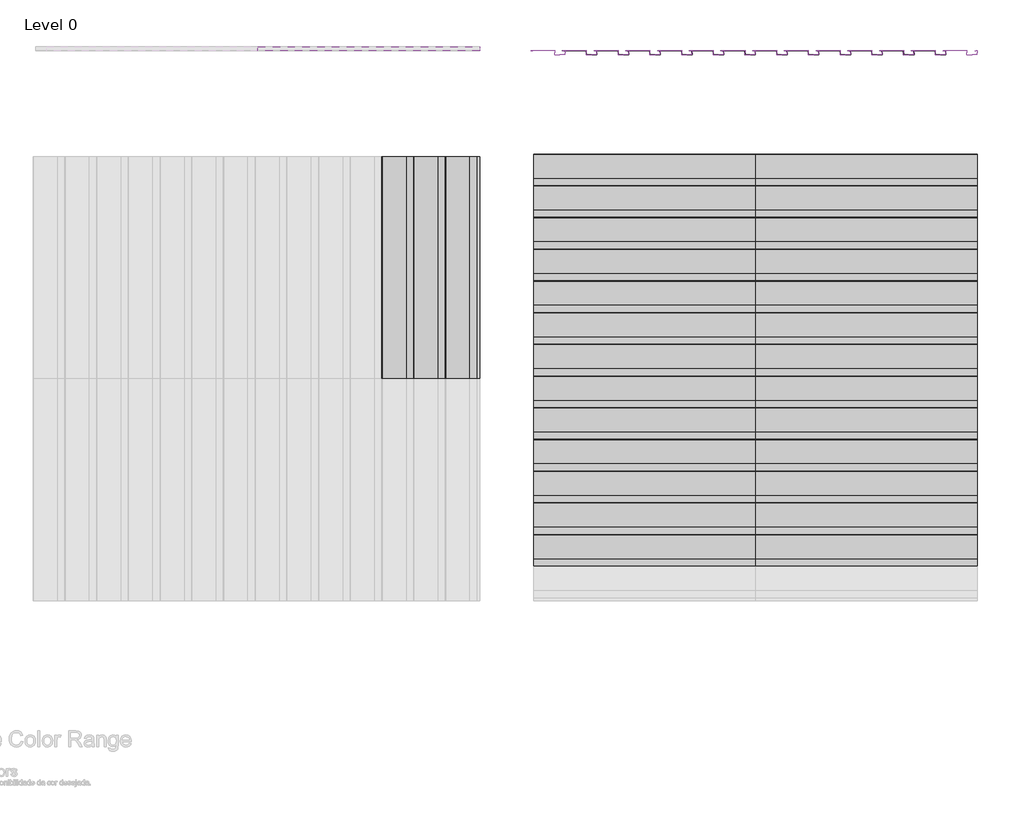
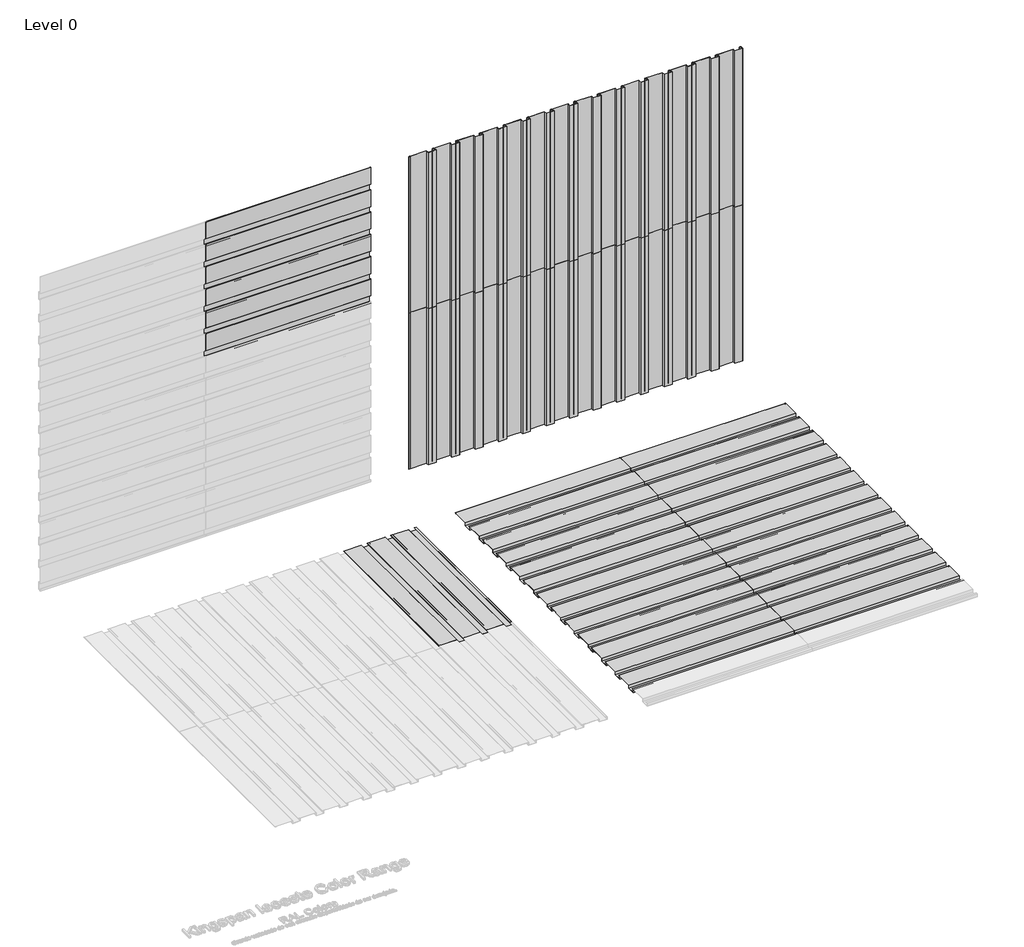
# One storey, part 2 of 2: 63 proxies.
"""IFC4 building model written with IfcOpenShell, lengths in millimetres."""

from ifc_helpers import new_model, si_unit, origin, place, context, project, spatial, transform, mapped, element, save
from components import mx11_0_standard_panel_ns_7b6c7506, mx11_0_standard_panel_ns_816acfb4, mx11_0_standard_panel_ns_a8d7d735

model = new_model("IFC4")

# Units and contexts
model_context = context("Model", 3, world=origin())
ifc_project = project(units=[si_unit("LENGTHUNIT", "METRE", prefix="MILLI")], contexts=[model_context])

# Site, building, storey
site = spatial("IfcSite", under=ifc_project)
building = spatial("IfcBuilding", under=site)
storey = spatial("IfcBuildingStorey", under=building, Name="Level 0", Elevation=0.0)

# Proxies
placement = place(None, origin())
mx11_0_standard_panel_ns_shape = mx11_0_standard_panel_ns_7b6c7506(model_context)
element("IfcBuildingElementProxy", 1, Name="MX11.0 : Standard Panel_NS", ObjectType="MX11.0 : Standard Panel_NS", at=placement, inside=storey, context=model_context, shape_type="MappedRepresentation", body=[
    mapped(mx11_0_standard_panel_ns_shape, transform((3089.7088665, 5063.0274074, 0.0), x_axis=(0.0, 0.0, 1.0), y_axis=(-1.0, 0.0, 0.0), z_axis=(0.0, -1.0, 0.0))),
])
element("IfcBuildingElementProxy", 2, Name="MX11.0 : Standard Panel_NS", ObjectType="MX11.0 : Standard Panel_NS", at=placement, inside=storey, context=model_context, shape_type="MappedRepresentation", body=[
    mapped(mx11_0_standard_panel_ns_shape, transform((3089.7088665, 5063.0274074, 2100.0), x_axis=(0.0, 0.0, 1.0), y_axis=(-1.0, 0.0, 0.0), z_axis=(0.0, -1.0, 0.0))),
])
element("IfcBuildingElementProxy", 3, Name="MX11.0 : Standard Panel_NS", ObjectType="MX11.0 : Standard Panel_NS", at=placement, inside=storey, context=model_context, shape_type="MappedRepresentation", body=[
    mapped(mx11_0_standard_panel_ns_shape, transform((5489.7088666, 5063.0274074, 0.0), x_axis=(0.0, 0.0, 1.0), y_axis=(-1.0, 0.0, 0.0), z_axis=(0.0, -1.0, 0.0))),
])
element("IfcBuildingElementProxy", 4, Name="MX11.0 : Standard Panel_NS", ObjectType="MX11.0 : Standard Panel_NS", at=placement, inside=storey, context=model_context, shape_type="MappedRepresentation", body=[
    mapped(mx11_0_standard_panel_ns_shape, transform((5489.7088666, 5063.0274074, 2100.0), x_axis=(0.0, 0.0, 1.0), y_axis=(-1.0, 0.0, 0.0), z_axis=(0.0, -1.0, 0.0))),
])
mx11_0_standard_panel_ns_2_shape = mx11_0_standard_panel_ns_816acfb4(model_context)
element("IfcBuildingElementProxy", 5, Name="MX11.0 : Standard Panel_NS", ObjectType="MX11.0 : Standard Panel_NS", at=placement, inside=storey, context=model_context, shape_type="MappedRepresentation", body=[
    mapped(mx11_0_standard_panel_ns_2_shape, transform((1289.7088668, 2258.3113453, 0.0), x_axis=(1.0, 0.0, 0.0), y_axis=(0.0, 1.0, 0.0), z_axis=(0.0, 0.0, 1.0))),
])
element("IfcBuildingElementProxy", 6, Name="MX11.0 : Standard Panel_NS", ObjectType="MX11.0 : Standard Panel_NS", at=placement, inside=storey, context=model_context, shape_type="MappedRepresentation", body=[
    mapped(mx11_0_standard_panel_ns_2_shape, transform((782.2362705, 1958.3113453, 0.0), x_axis=(0.0, 1.0, 0.0), y_axis=(-1.0, 0.0, 0.0), z_axis=(0.0, 0.0, 1.0))),
])
element("IfcBuildingElementProxy", 7, Name="MX11.0 : Standard Panel_NS", ObjectType="MX11.0 : Standard Panel_NS", at=placement, inside=storey, context=model_context, shape_type="MappedRepresentation", body=[
    mapped(mx11_0_standard_panel_ns_2_shape, transform((3389.7088668, 2258.3113453, 0.0), x_axis=(1.0, 0.0, 0.0), y_axis=(0.0, 1.0, 0.0), z_axis=(0.0, 0.0, 1.0))),
])
mx11_0_standard_panel_ns_3_shape = mx11_0_standard_panel_ns_a8d7d735(model_context)
element("IfcBuildingElementProxy", 8, Name="MX11.0 : Standard Panel_NS", ObjectType="MX11.0 : Standard Panel_NS", at=placement, inside=storey, context=model_context, shape_type="MappedRepresentation", body=[
    mapped(mx11_0_standard_panel_ns_3_shape, transform((-1317.7637295, 5063.0274074, 2400.0), x_axis=(1.0, 0.0, 0.0), y_axis=(0.0, 0.0, -1.0), z_axis=(0.0, 1.0, 0.0))),
])
element("IfcBuildingElementProxy", 9, Name="MX11.0 : Standard Panel_NS", ObjectType="MX11.0 : Standard Panel_NS", at=placement, inside=storey, context=model_context, shape_type="MappedRepresentation", body=[
    mapped(mx11_0_standard_panel_ns_2_shape, transform((1289.7088668, 1358.3113453, 0.0), x_axis=(1.0, 0.0, 0.0), y_axis=(0.0, 1.0, 0.0), z_axis=(0.0, 0.0, 1.0))),
])
element("IfcBuildingElementProxy", 10, Name="MX11.0 : Standard Panel_NS", ObjectType="MX11.0 : Standard Panel_NS", at=placement, inside=storey, context=model_context, shape_type="MappedRepresentation", body=[
    mapped(mx11_0_standard_panel_ns_2_shape, transform((1289.7088668, 3758.3113453, 0.0), x_axis=(1.0, 0.0, 0.0), y_axis=(0.0, 1.0, 0.0), z_axis=(0.0, 0.0, 1.0))),
])
element("IfcBuildingElementProxy", 11, Name="MX11.0 : Standard Panel_NS", ObjectType="MX11.0 : Standard Panel_NS", at=placement, inside=storey, context=model_context, shape_type="MappedRepresentation", body=[
    mapped(mx11_0_standard_panel_ns_2_shape, transform((3389.7088668, 1358.3113453, 0.0), x_axis=(1.0, 0.0, 0.0), y_axis=(0.0, 1.0, 0.0), z_axis=(0.0, 0.0, 1.0))),
])
element("IfcBuildingElementProxy", 12, Name="MX11.0 : Standard Panel_NS", ObjectType="MX11.0 : Standard Panel_NS", at=placement, inside=storey, context=model_context, shape_type="MappedRepresentation", body=[
    mapped(mx11_0_standard_panel_ns_2_shape, transform((3389.7088668, 3758.3113453, 0.0), x_axis=(1.0, 0.0, 0.0), y_axis=(0.0, 1.0, 0.0), z_axis=(0.0, 0.0, 1.0))),
])
element("IfcBuildingElementProxy", 13, Name="MX11.0 : Standard Panel_NS", ObjectType="MX11.0 : Standard Panel_NS", at=placement, inside=storey, context=model_context, shape_type="MappedRepresentation", body=[
    mapped(mx11_0_standard_panel_ns_shape, transform((1589.7088666, 5063.0274074, 0.0), x_axis=(0.0, 0.0, 1.0), y_axis=(-1.0, 0.0, 0.0), z_axis=(0.0, -1.0, 0.0))),
])
element("IfcBuildingElementProxy", 14, Name="MX11.0 : Standard Panel_NS", ObjectType="MX11.0 : Standard Panel_NS", at=placement, inside=storey, context=model_context, shape_type="MappedRepresentation", body=[
    mapped(mx11_0_standard_panel_ns_shape, transform((1589.7088666, 5063.0274074, 2100.0), x_axis=(0.0, 0.0, 1.0), y_axis=(-1.0, 0.0, 0.0), z_axis=(0.0, -1.0, 0.0))),
])
element("IfcBuildingElementProxy", 15, Name="MX11.0 : Standard Panel_NS", ObjectType="MX11.0 : Standard Panel_NS", at=placement, inside=storey, context=model_context, shape_type="MappedRepresentation", body=[
    mapped(mx11_0_standard_panel_ns_shape, transform((3989.7088665, 5063.0274074, 0.0), x_axis=(0.0, 0.0, 1.0), y_axis=(-1.0, 0.0, 0.0), z_axis=(0.0, -1.0, 0.0))),
])
element("IfcBuildingElementProxy", 16, Name="MX11.0 : Standard Panel_NS", ObjectType="MX11.0 : Standard Panel_NS", at=placement, inside=storey, context=model_context, shape_type="MappedRepresentation", body=[
    mapped(mx11_0_standard_panel_ns_shape, transform((3989.7088665, 5063.0274074, 2100.0), x_axis=(0.0, 0.0, 1.0), y_axis=(-1.0, 0.0, 0.0), z_axis=(0.0, -1.0, 0.0))),
])
element("IfcBuildingElementProxy", 17, Name="MX11.0 : Standard Panel_NS", ObjectType="MX11.0 : Standard Panel_NS", at=placement, inside=storey, context=model_context, shape_type="MappedRepresentation", body=[
    mapped(mx11_0_standard_panel_ns_shape, transform((2789.7088665, 5063.0274074, 0.0), x_axis=(0.0, 0.0, 1.0), y_axis=(-1.0, 0.0, 0.0), z_axis=(0.0, -1.0, 0.0))),
])
element("IfcBuildingElementProxy", 18, Name="MX11.0 : Standard Panel_NS", ObjectType="MX11.0 : Standard Panel_NS", at=placement, inside=storey, context=model_context, shape_type="MappedRepresentation", body=[
    mapped(mx11_0_standard_panel_ns_shape, transform((2789.7088665, 5063.0274074, 2100.0), x_axis=(0.0, 0.0, 1.0), y_axis=(-1.0, 0.0, 0.0), z_axis=(0.0, -1.0, 0.0))),
])
element("IfcBuildingElementProxy", 19, Name="MX11.0 : Standard Panel_NS", ObjectType="MX11.0 : Standard Panel_NS", at=placement, inside=storey, context=model_context, shape_type="MappedRepresentation", body=[
    mapped(mx11_0_standard_panel_ns_shape, transform((5189.7088665, 5063.0274074, 0.0), x_axis=(0.0, 0.0, 1.0), y_axis=(-1.0, 0.0, 0.0), z_axis=(0.0, -1.0, 0.0))),
])
element("IfcBuildingElementProxy", 20, Name="MX11.0 : Standard Panel_NS", ObjectType="MX11.0 : Standard Panel_NS", at=placement, inside=storey, context=model_context, shape_type="MappedRepresentation", body=[
    mapped(mx11_0_standard_panel_ns_shape, transform((5189.7088665, 5063.0274074, 2100.0), x_axis=(0.0, 0.0, 1.0), y_axis=(-1.0, 0.0, 0.0), z_axis=(0.0, -1.0, 0.0))),
])
element("IfcBuildingElementProxy", 21, Name="MX11.0 : Standard Panel_NS", ObjectType="MX11.0 : Standard Panel_NS", at=placement, inside=storey, context=model_context, shape_type="MappedRepresentation", body=[
    mapped(mx11_0_standard_panel_ns_shape, transform((2489.7088665, 5063.0274074, 0.0), x_axis=(0.0, 0.0, 1.0), y_axis=(-1.0, 0.0, 0.0), z_axis=(0.0, -1.0, 0.0))),
])
element("IfcBuildingElementProxy", 22, Name="MX11.0 : Standard Panel_NS", ObjectType="MX11.0 : Standard Panel_NS", at=placement, inside=storey, context=model_context, shape_type="MappedRepresentation", body=[
    mapped(mx11_0_standard_panel_ns_shape, transform((2489.7088665, 5063.0274074, 2100.0), x_axis=(0.0, 0.0, 1.0), y_axis=(-1.0, 0.0, 0.0), z_axis=(0.0, -1.0, 0.0))),
])
element("IfcBuildingElementProxy", 23, Name="MX11.0 : Standard Panel_NS", ObjectType="MX11.0 : Standard Panel_NS", at=placement, inside=storey, context=model_context, shape_type="MappedRepresentation", body=[
    mapped(mx11_0_standard_panel_ns_shape, transform((4889.7088665, 5063.0274074, 0.0), x_axis=(0.0, 0.0, 1.0), y_axis=(-1.0, 0.0, 0.0), z_axis=(0.0, -1.0, 0.0))),
])
element("IfcBuildingElementProxy", 24, Name="MX11.0 : Standard Panel_NS", ObjectType="MX11.0 : Standard Panel_NS", at=placement, inside=storey, context=model_context, shape_type="MappedRepresentation", body=[
    mapped(mx11_0_standard_panel_ns_shape, transform((4889.7088665, 5063.0274074, 2100.0), x_axis=(0.0, 0.0, 1.0), y_axis=(-1.0, 0.0, 0.0), z_axis=(0.0, -1.0, 0.0))),
])
element("IfcBuildingElementProxy", 25, Name="MX11.0 : Standard Panel_NS", ObjectType="MX11.0 : Standard Panel_NS", at=placement, inside=storey, context=model_context, shape_type="MappedRepresentation", body=[
    mapped(mx11_0_standard_panel_ns_shape, transform((2189.7088665, 5063.0274074, 0.0), x_axis=(0.0, 0.0, 1.0), y_axis=(-1.0, 0.0, 0.0), z_axis=(0.0, -1.0, 0.0))),
])
element("IfcBuildingElementProxy", 26, Name="MX11.0 : Standard Panel_NS", ObjectType="MX11.0 : Standard Panel_NS", at=placement, inside=storey, context=model_context, shape_type="MappedRepresentation", body=[
    mapped(mx11_0_standard_panel_ns_shape, transform((2189.7088665, 5063.0274074, 2100.0), x_axis=(0.0, 0.0, 1.0), y_axis=(-1.0, 0.0, 0.0), z_axis=(0.0, -1.0, 0.0))),
])
element("IfcBuildingElementProxy", 27, Name="MX11.0 : Standard Panel_NS", ObjectType="MX11.0 : Standard Panel_NS", at=placement, inside=storey, context=model_context, shape_type="MappedRepresentation", body=[
    mapped(mx11_0_standard_panel_ns_shape, transform((4589.7088665, 5063.0274074, 0.0), x_axis=(0.0, 0.0, 1.0), y_axis=(-1.0, 0.0, 0.0), z_axis=(0.0, -1.0, 0.0))),
])
element("IfcBuildingElementProxy", 28, Name="MX11.0 : Standard Panel_NS", ObjectType="MX11.0 : Standard Panel_NS", at=placement, inside=storey, context=model_context, shape_type="MappedRepresentation", body=[
    mapped(mx11_0_standard_panel_ns_shape, transform((4589.7088665, 5063.0274074, 2100.0), x_axis=(0.0, 0.0, 1.0), y_axis=(-1.0, 0.0, 0.0), z_axis=(0.0, -1.0, 0.0))),
])
element("IfcBuildingElementProxy", 29, Name="MX11.0 : Standard Panel_NS", ObjectType="MX11.0 : Standard Panel_NS", at=placement, inside=storey, context=model_context, shape_type="MappedRepresentation", body=[
    mapped(mx11_0_standard_panel_ns_shape, transform((1889.7088665, 5063.0274074, 0.0), x_axis=(0.0, 0.0, 1.0), y_axis=(-1.0, 0.0, 0.0), z_axis=(0.0, -1.0, 0.0))),
])
element("IfcBuildingElementProxy", 30, Name="MX11.0 : Standard Panel_NS", ObjectType="MX11.0 : Standard Panel_NS", at=placement, inside=storey, context=model_context, shape_type="MappedRepresentation", body=[
    mapped(mx11_0_standard_panel_ns_shape, transform((1889.7088665, 5063.0274074, 2100.0), x_axis=(0.0, 0.0, 1.0), y_axis=(-1.0, 0.0, 0.0), z_axis=(0.0, -1.0, 0.0))),
])
element("IfcBuildingElementProxy", 31, Name="MX11.0 : Standard Panel_NS", ObjectType="MX11.0 : Standard Panel_NS", at=placement, inside=storey, context=model_context, shape_type="MappedRepresentation", body=[
    mapped(mx11_0_standard_panel_ns_shape, transform((4289.7088665, 5063.0274074, 0.0), x_axis=(0.0, 0.0, 1.0), y_axis=(-1.0, 0.0, 0.0), z_axis=(0.0, -1.0, 0.0))),
])
element("IfcBuildingElementProxy", 32, Name="MX11.0 : Standard Panel_NS", ObjectType="MX11.0 : Standard Panel_NS", at=placement, inside=storey, context=model_context, shape_type="MappedRepresentation", body=[
    mapped(mx11_0_standard_panel_ns_shape, transform((4289.7088665, 5063.0274074, 2100.0), x_axis=(0.0, 0.0, 1.0), y_axis=(-1.0, 0.0, 0.0), z_axis=(0.0, -1.0, 0.0))),
])
element("IfcBuildingElementProxy", 33, Name="MX11.0 : Standard Panel_NS", ObjectType="MX11.0 : Standard Panel_NS", at=placement, inside=storey, context=model_context, shape_type="MappedRepresentation", body=[
    mapped(mx11_0_standard_panel_ns_shape, transform((3689.7088665, 5063.0274074, 0.0), x_axis=(0.0, 0.0, 1.0), y_axis=(-1.0, 0.0, 0.0), z_axis=(0.0, -1.0, 0.0))),
])
element("IfcBuildingElementProxy", 34, Name="MX11.0 : Standard Panel_NS", ObjectType="MX11.0 : Standard Panel_NS", at=placement, inside=storey, context=model_context, shape_type="MappedRepresentation", body=[
    mapped(mx11_0_standard_panel_ns_shape, transform((3689.7088665, 5063.0274074, 2100.0), x_axis=(0.0, 0.0, 1.0), y_axis=(-1.0, 0.0, 0.0), z_axis=(0.0, -1.0, 0.0))),
])
element("IfcBuildingElementProxy", 35, Name="MX11.0 : Standard Panel_NS", ObjectType="MX11.0 : Standard Panel_NS", at=placement, inside=storey, context=model_context, shape_type="MappedRepresentation", body=[
    mapped(mx11_0_standard_panel_ns_shape, transform((3389.7088665, 5063.0274074, 0.0), x_axis=(0.0, 0.0, 1.0), y_axis=(-1.0, 0.0, 0.0), z_axis=(0.0, -1.0, 0.0))),
])
element("IfcBuildingElementProxy", 36, Name="MX11.0 : Standard Panel_NS", ObjectType="MX11.0 : Standard Panel_NS", at=placement, inside=storey, context=model_context, shape_type="MappedRepresentation", body=[
    mapped(mx11_0_standard_panel_ns_shape, transform((3389.7088665, 5063.0274074, 2100.0), x_axis=(0.0, 0.0, 1.0), y_axis=(-1.0, 0.0, 0.0), z_axis=(0.0, -1.0, 0.0))),
])
element("IfcBuildingElementProxy", 37, Name="MX11.0 : Standard Panel_NS", ObjectType="MX11.0 : Standard Panel_NS", at=placement, inside=storey, context=model_context, shape_type="MappedRepresentation", body=[
    mapped(mx11_0_standard_panel_ns_2_shape, transform((1289.7088668, 158.3113453, 0.0), x_axis=(1.0, 0.0, 0.0), y_axis=(0.0, 1.0, 0.0), z_axis=(0.0, 0.0, 1.0))),
])
element("IfcBuildingElementProxy", 38, Name="MX11.0 : Standard Panel_NS", ObjectType="MX11.0 : Standard Panel_NS", at=placement, inside=storey, context=model_context, shape_type="MappedRepresentation", body=[
    mapped(mx11_0_standard_panel_ns_2_shape, transform((1289.7088668, 2558.3113453, 0.0), x_axis=(1.0, 0.0, 0.0), y_axis=(0.0, 1.0, 0.0), z_axis=(0.0, 0.0, 1.0))),
])
element("IfcBuildingElementProxy", 39, Name="MX11.0 : Standard Panel_NS", ObjectType="MX11.0 : Standard Panel_NS", at=placement, inside=storey, context=model_context, shape_type="MappedRepresentation", body=[
    mapped(mx11_0_standard_panel_ns_2_shape, transform((482.2362703, 1958.3113453, 0.0), x_axis=(0.0, 1.0, 0.0), y_axis=(-1.0, 0.0, 0.0), z_axis=(0.0, 0.0, 1.0))),
])
element("IfcBuildingElementProxy", 40, Name="MX11.0 : Standard Panel_NS", ObjectType="MX11.0 : Standard Panel_NS", at=placement, inside=storey, context=model_context, shape_type="MappedRepresentation", body=[
    mapped(mx11_0_standard_panel_ns_2_shape, transform((3389.7088668, 158.3113453, 0.0), x_axis=(1.0, 0.0, 0.0), y_axis=(0.0, 1.0, 0.0), z_axis=(0.0, 0.0, 1.0))),
])
element("IfcBuildingElementProxy", 41, Name="MX11.0 : Standard Panel_NS", ObjectType="MX11.0 : Standard Panel_NS", at=placement, inside=storey, context=model_context, shape_type="MappedRepresentation", body=[
    mapped(mx11_0_standard_panel_ns_2_shape, transform((3389.7088668, 2558.3113453, 0.0), x_axis=(1.0, 0.0, 0.0), y_axis=(0.0, 1.0, 0.0), z_axis=(0.0, 0.0, 1.0))),
])
element("IfcBuildingElementProxy", 42, Name="MX11.0 : Standard Panel_NS", ObjectType="MX11.0 : Standard Panel_NS", at=placement, inside=storey, context=model_context, shape_type="MappedRepresentation", body=[
    mapped(mx11_0_standard_panel_ns_2_shape, transform((1289.7088668, 458.3113453, 0.0), x_axis=(1.0, 0.0, 0.0), y_axis=(0.0, 1.0, 0.0), z_axis=(0.0, 0.0, 1.0))),
])
element("IfcBuildingElementProxy", 43, Name="MX11.0 : Standard Panel_NS", ObjectType="MX11.0 : Standard Panel_NS", at=placement, inside=storey, context=model_context, shape_type="MappedRepresentation", body=[
    mapped(mx11_0_standard_panel_ns_2_shape, transform((1289.7088668, 2858.3113453, 0.0), x_axis=(1.0, 0.0, 0.0), y_axis=(0.0, 1.0, 0.0), z_axis=(0.0, 0.0, 1.0))),
])
element("IfcBuildingElementProxy", 44, Name="MX11.0 : Standard Panel_NS", ObjectType="MX11.0 : Standard Panel_NS", at=placement, inside=storey, context=model_context, shape_type="MappedRepresentation", body=[
    mapped(mx11_0_standard_panel_ns_2_shape, transform((182.2362703, 1958.3113453, 0.0), x_axis=(0.0, 1.0, 0.0), y_axis=(-1.0, 0.0, 0.0), z_axis=(0.0, 0.0, 1.0))),
])
element("IfcBuildingElementProxy", 45, Name="MX11.0 : Standard Panel_NS", ObjectType="MX11.0 : Standard Panel_NS", at=placement, inside=storey, context=model_context, shape_type="MappedRepresentation", body=[
    mapped(mx11_0_standard_panel_ns_2_shape, transform((3389.7088668, 458.3113453, 0.0), x_axis=(1.0, 0.0, 0.0), y_axis=(0.0, 1.0, 0.0), z_axis=(0.0, 0.0, 1.0))),
])
element("IfcBuildingElementProxy", 46, Name="MX11.0 : Standard Panel_NS", ObjectType="MX11.0 : Standard Panel_NS", at=placement, inside=storey, context=model_context, shape_type="MappedRepresentation", body=[
    mapped(mx11_0_standard_panel_ns_2_shape, transform((3389.7088668, 2858.3113453, 0.0), x_axis=(1.0, 0.0, 0.0), y_axis=(0.0, 1.0, 0.0), z_axis=(0.0, 0.0, 1.0))),
])
element("IfcBuildingElementProxy", 47, Name="MX11.0 : Standard Panel_NS", ObjectType="MX11.0 : Standard Panel_NS", at=placement, inside=storey, context=model_context, shape_type="MappedRepresentation", body=[
    mapped(mx11_0_standard_panel_ns_2_shape, transform((1289.7088668, 758.3113453, 0.0), x_axis=(1.0, 0.0, 0.0), y_axis=(0.0, 1.0, 0.0), z_axis=(0.0, 0.0, 1.0))),
])
element("IfcBuildingElementProxy", 48, Name="MX11.0 : Standard Panel_NS", ObjectType="MX11.0 : Standard Panel_NS", at=placement, inside=storey, context=model_context, shape_type="MappedRepresentation", body=[
    mapped(mx11_0_standard_panel_ns_2_shape, transform((1289.7088668, 3158.3113453, 0.0), x_axis=(1.0, 0.0, 0.0), y_axis=(0.0, 1.0, 0.0), z_axis=(0.0, 0.0, 1.0))),
])
element("IfcBuildingElementProxy", 49, Name="MX11.0 : Standard Panel_NS", ObjectType="MX11.0 : Standard Panel_NS", at=placement, inside=storey, context=model_context, shape_type="MappedRepresentation", body=[
    mapped(mx11_0_standard_panel_ns_2_shape, transform((3389.7088668, 758.3113453, 0.0), x_axis=(1.0, 0.0, 0.0), y_axis=(0.0, 1.0, 0.0), z_axis=(0.0, 0.0, 1.0))),
])
element("IfcBuildingElementProxy", 50, Name="MX11.0 : Standard Panel_NS", ObjectType="MX11.0 : Standard Panel_NS", at=placement, inside=storey, context=model_context, shape_type="MappedRepresentation", body=[
    mapped(mx11_0_standard_panel_ns_2_shape, transform((3389.7088668, 3158.3113453, 0.0), x_axis=(1.0, 0.0, 0.0), y_axis=(0.0, 1.0, 0.0), z_axis=(0.0, 0.0, 1.0))),
])
element("IfcBuildingElementProxy", 51, Name="MX11.0 : Standard Panel_NS", ObjectType="MX11.0 : Standard Panel_NS", at=placement, inside=storey, context=model_context, shape_type="MappedRepresentation", body=[
    mapped(mx11_0_standard_panel_ns_2_shape, transform((1289.7088668, 1058.3113453, 0.0), x_axis=(1.0, 0.0, 0.0), y_axis=(0.0, 1.0, 0.0), z_axis=(0.0, 0.0, 1.0))),
])
element("IfcBuildingElementProxy", 52, Name="MX11.0 : Standard Panel_NS", ObjectType="MX11.0 : Standard Panel_NS", at=placement, inside=storey, context=model_context, shape_type="MappedRepresentation", body=[
    mapped(mx11_0_standard_panel_ns_2_shape, transform((1289.7088668, 3458.3113453, 0.0), x_axis=(1.0, 0.0, 0.0), y_axis=(0.0, 1.0, 0.0), z_axis=(0.0, 0.0, 1.0))),
])
element("IfcBuildingElementProxy", 53, Name="MX11.0 : Standard Panel_NS", ObjectType="MX11.0 : Standard Panel_NS", at=placement, inside=storey, context=model_context, shape_type="MappedRepresentation", body=[
    mapped(mx11_0_standard_panel_ns_2_shape, transform((3389.7088668, 1058.3113453, 0.0), x_axis=(1.0, 0.0, 0.0), y_axis=(0.0, 1.0, 0.0), z_axis=(0.0, 0.0, 1.0))),
])
element("IfcBuildingElementProxy", 54, Name="MX11.0 : Standard Panel_NS", ObjectType="MX11.0 : Standard Panel_NS", at=placement, inside=storey, context=model_context, shape_type="MappedRepresentation", body=[
    mapped(mx11_0_standard_panel_ns_2_shape, transform((3389.7088668, 3458.3113453, 0.0), x_axis=(1.0, 0.0, 0.0), y_axis=(0.0, 1.0, 0.0), z_axis=(0.0, 0.0, 1.0))),
])
element("IfcBuildingElementProxy", 55, Name="MX11.0 : Standard Panel_NS", ObjectType="MX11.0 : Standard Panel_NS", at=placement, inside=storey, context=model_context, shape_type="MappedRepresentation", body=[
    mapped(mx11_0_standard_panel_ns_2_shape, transform((1289.7088668, 1658.3113453, 0.0), x_axis=(1.0, 0.0, 0.0), y_axis=(0.0, 1.0, 0.0), z_axis=(0.0, 0.0, 1.0))),
])
element("IfcBuildingElementProxy", 56, Name="MX11.0 : Standard Panel_NS", ObjectType="MX11.0 : Standard Panel_NS", at=placement, inside=storey, context=model_context, shape_type="MappedRepresentation", body=[
    mapped(mx11_0_standard_panel_ns_2_shape, transform((3389.7088668, 1658.3113453, 0.0), x_axis=(1.0, 0.0, 0.0), y_axis=(0.0, 1.0, 0.0), z_axis=(0.0, 0.0, 1.0))),
])
element("IfcBuildingElementProxy", 57, Name="MX11.0 : Standard Panel_NS", ObjectType="MX11.0 : Standard Panel_NS", at=placement, inside=storey, context=model_context, shape_type="MappedRepresentation", body=[
    mapped(mx11_0_standard_panel_ns_2_shape, transform((1289.7088668, 1958.3113453, 0.0), x_axis=(1.0, 0.0, 0.0), y_axis=(0.0, 1.0, 0.0), z_axis=(0.0, 0.0, 1.0))),
])
element("IfcBuildingElementProxy", 58, Name="MX11.0 : Standard Panel_NS", ObjectType="MX11.0 : Standard Panel_NS", at=placement, inside=storey, context=model_context, shape_type="MappedRepresentation", body=[
    mapped(mx11_0_standard_panel_ns_2_shape, transform((3389.7088668, 1958.3113453, 0.0), x_axis=(1.0, 0.0, 0.0), y_axis=(0.0, 1.0, 0.0), z_axis=(0.0, 0.0, 1.0))),
])
element("IfcBuildingElementProxy", 59, Name="MX11.0 : Standard Panel_NS", ObjectType="MX11.0 : Standard Panel_NS", at=placement, inside=storey, context=model_context, shape_type="MappedRepresentation", body=[
    mapped(mx11_0_standard_panel_ns_3_shape, transform((-1317.7637295, 5063.0274074, 2700.0), x_axis=(1.0, 0.0, 0.0), y_axis=(0.0, 0.0, -1.0), z_axis=(0.0, 1.0, 0.0))),
])
element("IfcBuildingElementProxy", 60, Name="MX11.0 : Standard Panel_NS", ObjectType="MX11.0 : Standard Panel_NS", at=placement, inside=storey, context=model_context, shape_type="MappedRepresentation", body=[
    mapped(mx11_0_standard_panel_ns_3_shape, transform((-1317.7637295, 5063.0274074, 3000.0), x_axis=(1.0, 0.0, 0.0), y_axis=(0.0, 0.0, -1.0), z_axis=(0.0, 1.0, 0.0))),
])
element("IfcBuildingElementProxy", 61, Name="MX11.0 : Standard Panel_NS", ObjectType="MX11.0 : Standard Panel_NS", at=placement, inside=storey, context=model_context, shape_type="MappedRepresentation", body=[
    mapped(mx11_0_standard_panel_ns_3_shape, transform((-1317.7637295, 5063.0274074, 3300.0), x_axis=(1.0, 0.0, 0.0), y_axis=(0.0, 0.0, -1.0), z_axis=(0.0, 1.0, 0.0))),
])
element("IfcBuildingElementProxy", 62, Name="MX11.0 : Standard Panel_NS", ObjectType="MX11.0 : Standard Panel_NS", at=placement, inside=storey, context=model_context, shape_type="MappedRepresentation", body=[
    mapped(mx11_0_standard_panel_ns_3_shape, transform((-1317.7637295, 5063.0274074, 3600.0), x_axis=(1.0, 0.0, 0.0), y_axis=(0.0, 0.0, -1.0), z_axis=(0.0, 1.0, 0.0))),
])
element("IfcBuildingElementProxy", 63, Name="MX11.0 : Standard Panel_NS", ObjectType="MX11.0 : Standard Panel_NS", at=placement, inside=storey, context=model_context, shape_type="MappedRepresentation", body=[
    mapped(mx11_0_standard_panel_ns_3_shape, transform((-1317.7637295, 5063.0274074, 3900.0), x_axis=(1.0, 0.0, 0.0), y_axis=(0.0, 0.0, -1.0), z_axis=(0.0, 1.0, 0.0))),
])

save(model, "model.ifc")
